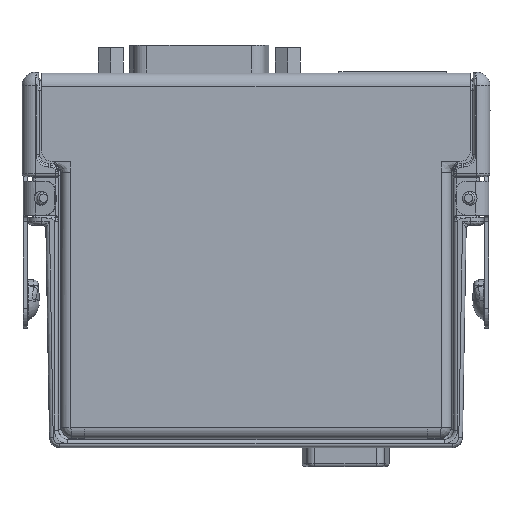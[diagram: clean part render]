
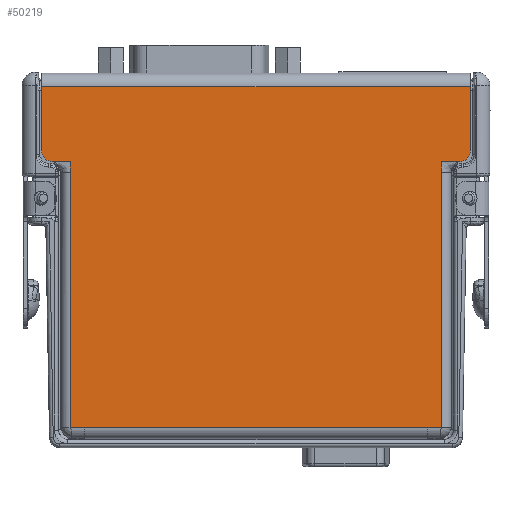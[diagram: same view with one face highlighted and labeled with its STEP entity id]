
A CAD part, left-side view. The second image highlights one B-rep face of the part: STEP entity #50219.
In plain terms, the highlighted planar face has unit normal (-1, 0, 0).
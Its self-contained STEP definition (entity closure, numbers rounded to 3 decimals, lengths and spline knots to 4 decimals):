
#18130=DIRECTION('',(0.,-1.,0.));
#18131=VECTOR('',#18130,3.179);
#18132=CARTESIAN_POINT('',(-0.4475,1.5895,2.676));
#18133=LINE('',#18132,#18131);
#18242=CARTESIAN_POINT('',(-0.4475,1.5095,2.2));
#18243=DIRECTION('',(-1.,0.,0.));
#18244=DIRECTION('',(0.,1.,0.));
#18245=AXIS2_PLACEMENT_3D('',#18242,#18243,#18244);
#18247=DIRECTION('',(0.,-1.,0.));
#18248=VECTOR('',#18247,0.133);
#18249=CARTESIAN_POINT('',(-0.4475,1.5095,2.12));
#18250=LINE('',#18249,#18248);
#18259=DIRECTION('',(0.,0.,-1.));
#18260=VECTOR('',#18259,0.476);
#18261=CARTESIAN_POINT('',(-0.4475,1.5895,2.676));
#18262=LINE('',#18261,#18260);
#18263=DIRECTION('',(0.,0.,1.));
#18264=VECTOR('',#18263,0.476);
#18265=CARTESIAN_POINT('',(-0.4475,-1.5895,2.2));
#18266=LINE('',#18265,#18264);
#18267=DIRECTION('',(0.,0.,1.));
#18268=VECTOR('',#18267,0.079);
#18269=CARTESIAN_POINT('',(-0.4475,-1.3765,2.041));
#18270=LINE('',#18269,#18268);
#18271=DIRECTION('',(0.,-1.,0.));
#18272=VECTOR('',#18271,0.105);
#18273=CARTESIAN_POINT('',(-0.4475,-1.2715,0.146));
#18274=LINE('',#18273,#18272);
#18275=DIRECTION('',(0.,-1.,0.));
#18276=VECTOR('',#18275,0.105);
#18277=CARTESIAN_POINT('',(-0.4475,1.3765,0.146));
#18278=LINE('',#18277,#18276);
#18279=DIRECTION('',(0.,0.,1.));
#18280=VECTOR('',#18279,0.079);
#18281=CARTESIAN_POINT('',(-0.4475,1.3765,2.041));
#18282=LINE('',#18281,#18280);
#18300=CARTESIAN_POINT('',(-0.4475,-1.5095,2.2));
#18301=DIRECTION('',(-1.,0.,0.));
#18302=DIRECTION('',(0.,0.,-1.));
#18303=AXIS2_PLACEMENT_3D('',#18300,#18301,#18302);
#18313=DIRECTION('',(0.,-1.,0.));
#18314=VECTOR('',#18313,0.133);
#18315=CARTESIAN_POINT('',(-0.4475,-1.3765,2.12));
#18316=LINE('',#18315,#18314);
#18348=DIRECTION('',(0.,0.,1.));
#18349=VECTOR('',#18348,1.895);
#18350=CARTESIAN_POINT('',(-0.4475,-1.3765,0.146));
#18351=LINE('',#18350,#18349);
#18539=DIRECTION('',(0.,-1.,0.));
#18540=VECTOR('',#18539,2.543);
#18541=CARTESIAN_POINT('',(-0.4475,1.2715,0.146));
#18542=LINE('',#18541,#18540);
#20091=DIRECTION('',(0.,0.,1.));
#20092=VECTOR('',#20091,1.895);
#20093=CARTESIAN_POINT('',(-0.4475,1.3765,0.146));
#20094=LINE('',#20093,#20092);
#26004=CARTESIAN_POINT('',(-0.4475,-1.5895,2.676));
#26005=VERTEX_POINT('',#26004);
#26006=CARTESIAN_POINT('',(-0.4475,1.5895,2.676));
#26007=VERTEX_POINT('',#26006);
#26036=CARTESIAN_POINT('',(-0.4475,1.2715,0.146));
#26037=CARTESIAN_POINT('',(-0.4475,-1.2715,0.146));
#26038=VERTEX_POINT('',#26036);
#26039=VERTEX_POINT('',#26037);
#26048=CARTESIAN_POINT('',(-0.4475,-1.3765,0.146));
#26049=VERTEX_POINT('',#26048);
#26060=CARTESIAN_POINT('',(-0.4475,1.3765,0.146));
#26061=VERTEX_POINT('',#26060);
#26109=CARTESIAN_POINT('',(-0.4475,1.5095,2.12));
#26111=VERTEX_POINT('',#26109);
#26114=CARTESIAN_POINT('',(-0.4475,1.5895,2.2));
#26115=VERTEX_POINT('',#26114);
#26117=CARTESIAN_POINT('',(-0.4475,-1.5895,2.2));
#26119=VERTEX_POINT('',#26117);
#26122=CARTESIAN_POINT('',(-0.4475,-1.5095,2.12));
#26123=VERTEX_POINT('',#26122);
#26136=CARTESIAN_POINT('',(-0.4475,-1.3765,2.041));
#26137=VERTEX_POINT('',#26136);
#26140=CARTESIAN_POINT('',(-0.4475,-1.3765,2.12));
#26141=VERTEX_POINT('',#26140);
#26148=CARTESIAN_POINT('',(-0.4475,1.3765,2.041));
#26149=CARTESIAN_POINT('',(-0.4475,1.3765,2.12));
#26150=VERTEX_POINT('',#26148);
#26151=VERTEX_POINT('',#26149);
#50187=CARTESIAN_POINT('',(-0.4475,0.,1.421));
#50188=DIRECTION('',(-1.,0.,0.));
#50189=DIRECTION('',(0.,1.,0.));
#50190=AXIS2_PLACEMENT_3D('',#50187,#50188,#50189);
#50191=PLANE('',#50190);
#50192=ORIENTED_EDGE('',*,*,#50168,.F.);
#50194=ORIENTED_EDGE('',*,*,#50193,.F.);
#50195=ORIENTED_EDGE('',*,*,#50034,.T.);
#50197=ORIENTED_EDGE('',*,*,#50196,.F.);
#50199=ORIENTED_EDGE('',*,*,#50198,.F.);
#50201=ORIENTED_EDGE('',*,*,#50200,.F.);
#50203=ORIENTED_EDGE('',*,*,#50202,.F.);
#50205=ORIENTED_EDGE('',*,*,#50204,.F.);
#50207=ORIENTED_EDGE('',*,*,#50206,.F.);
#50209=ORIENTED_EDGE('',*,*,#50208,.F.);
#50211=ORIENTED_EDGE('',*,*,#50210,.F.);
#50213=ORIENTED_EDGE('',*,*,#50212,.T.);
#50215=ORIENTED_EDGE('',*,*,#50214,.T.);
#50216=ORIENTED_EDGE('',*,*,#50179,.F.);
#50217=EDGE_LOOP('',(#50192,#50194,#50195,#50197,#50199,#50201,#50203,#50205,
#50207,#50209,#50211,#50213,#50215,#50216));
#50218=FACE_OUTER_BOUND('',#50217,.F.);
#50219=ADVANCED_FACE('',(#50218),#50191,.T.);
#18246=CIRCLE('',#18245,0.08);
#18304=CIRCLE('',#18303,0.08);
#50034=EDGE_CURVE('',#26007,#26005,#18133,.T.);
#50168=EDGE_CURVE('',#26115,#26111,#18246,.T.);
#50179=EDGE_CURVE('',#26111,#26151,#18250,.T.);
#50193=EDGE_CURVE('',#26007,#26115,#18262,.T.);
#50196=EDGE_CURVE('',#26119,#26005,#18266,.T.);
#50198=EDGE_CURVE('',#26123,#26119,#18304,.T.);
#50200=EDGE_CURVE('',#26141,#26123,#18316,.T.);
#50202=EDGE_CURVE('',#26137,#26141,#18270,.T.);
#50204=EDGE_CURVE('',#26049,#26137,#18351,.T.);
#50206=EDGE_CURVE('',#26039,#26049,#18274,.T.);
#50208=EDGE_CURVE('',#26038,#26039,#18542,.T.);
#50210=EDGE_CURVE('',#26061,#26038,#18278,.T.);
#50212=EDGE_CURVE('',#26061,#26150,#20094,.T.);
#50214=EDGE_CURVE('',#26150,#26151,#18282,.T.);
